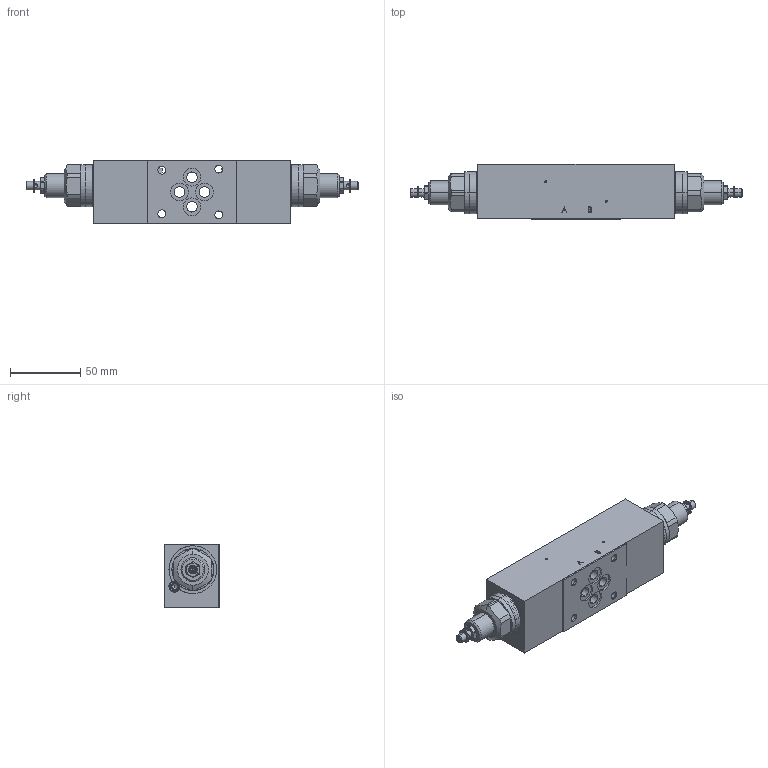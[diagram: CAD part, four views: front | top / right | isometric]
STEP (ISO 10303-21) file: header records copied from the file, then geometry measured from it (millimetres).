
FILE_DESCRIPTION (( 'STEP AP214' ), '1' );
FILE_NAME ('QZSSA06-AB.STEP', '2017-04-19T11:17:02', ( '' ), ( '' ), 'SwSTEP 2.0', 'SolidWorks 2016', '' );
FILE_SCHEMA (( 'AUTOMOTIVE_DESIGN' ));
Length unit declared in the file: millimetre
Products named in the file (1): QZSSA06-AB
Bounding box: 236.2 x 39.75 x 45 mm (x, y, z)
Volume: 267796.5 mm3; surface area: 48676.9 mm2
Topology: 6 solids, 12 shells, 536 faces, 1330 edges, 830 vertices
Faces by surface type: plane 205, cylinder 198, cone 96, torus 20, bspline 9, sphere 8
Entity records: 22796 total; most frequent: CARTESIAN_POINT 4025, DIRECTION 2816, ORIENTED_EDGE 2620, EDGE_CURVE 1310, AXIS2_PLACEMENT_3D 1128, VERTEX_POINT 830, EDGE_LOOP 612, CIRCLE 600
